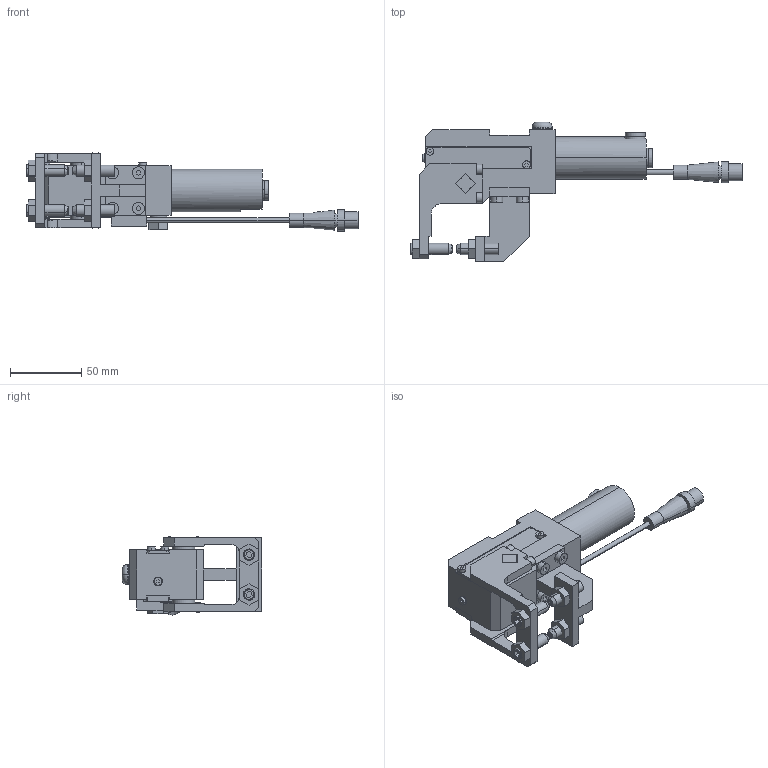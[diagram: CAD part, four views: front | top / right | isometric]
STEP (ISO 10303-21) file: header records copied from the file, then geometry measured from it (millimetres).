
FILE_DESCRIPTION (( 'STEP AP214' ), '1' );
FILE_NAME ('c25g2_2i_c.STEP', '2014-03-17T08:50:48', ( 'vep' ), ( 'TOSHIBA' ), 'SwSTEP 2.0', 'SolidWorks 2013', '' );
FILE_SCHEMA (( 'AUTOMOTIVE_DESIGN' ));
Length unit declared in the file: millimetre
Products named in the file (12): nipplo_cpr25; finecorsa_cpr25; gruppo_montante_cpr25; riparo_G20; tassello_g2_cpr 25; tappo G1_8 din908; vite_m8x30_zig_3_080; rondella_di_tenuta_G1_8; c25g2_2i_c; leva_g2_cpr25; vite_m8x8_iso7380; dado_basso_m8_din936_1_154
Assembly tree (19 placements, depth 2):
  c25g2_2i_c
    gruppo_montante_cpr25
    nipplo_cpr25
    vite_m8x8_iso7380
    rondella_di_tenuta_G1_8  x2
    tappo G1_8 din908  x2
    riparo_G20
    finecorsa_cpr25
    dado_basso_m8_din936_1_154  x4
    leva_g2_cpr25
    vite_m8x30_zig_3_080  x4
    tassello_g2_cpr 25
Bounding box: 233.5 x 98.2 x 55 mm (x, y, z)
Volume: 252689.7 mm3; surface area: 71744.5 mm2
Topology: 19 solids, 19 shells, 1003 faces, 2227 edges, 1320 vertices
Faces by surface type: plane 729, cylinder 222, cone 50, torus 2
Entity records: 18975 total; most frequent: DIRECTION 3118, CARTESIAN_POINT 3079, ORIENTED_EDGE 2872, EDGE_CURVE 1436, AXIS2_PLACEMENT_3D 1054, LINE 1010, VECTOR 1010, VERTEX_POINT 911
